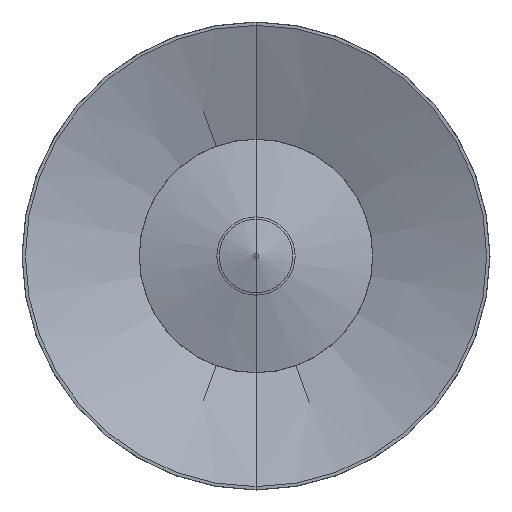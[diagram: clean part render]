
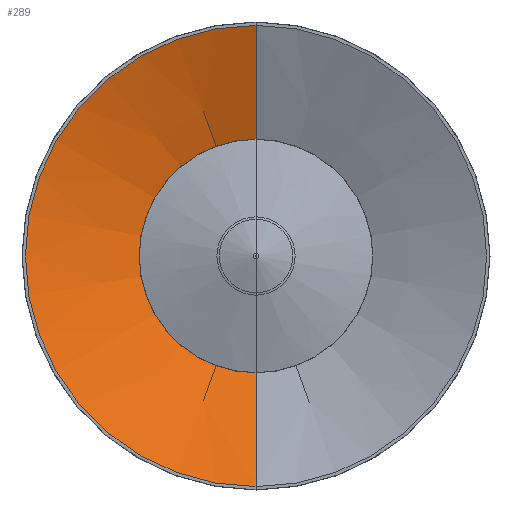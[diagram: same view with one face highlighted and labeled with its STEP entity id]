
A CAD part, front view. The second image highlights one B-rep face of the part: STEP entity #289.
In plain terms, the highlighted conical face has half-angle 68.199 degrees and reference radius 299.257 mm.
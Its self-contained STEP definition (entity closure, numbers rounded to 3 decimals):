
#102 = CARTESIAN_POINT ( 'NONE',  ( 0., -1.857, 299.257 ) ) ;
#146 = CARTESIAN_POINT ( 'NONE',  ( 0., 0., -294.615 ) ) ;
#155 = ORIENTED_EDGE ( 'NONE', *, *, #190, .F. ) ;
#178 = VERTEX_POINT ( 'NONE', #1228 ) ;
#185 = DIRECTION ( 'NONE',  ( 0., -0.371, 0.928 ) ) ;
#190 = EDGE_CURVE ( 'NONE', #928, #741, #1064, .T. ) ;
#205 = CIRCLE ( 'NONE', #422, 294.615 ) ;
#289 = ADVANCED_FACE ( 'NONE', ( #988 ), #636, .F. ) ;
#328 = EDGE_LOOP ( 'NONE', ( #155, #665, #584 ) ) ;
#330 = DIRECTION ( 'NONE',  ( 0., -1., 0. ) ) ;
#422 = AXIS2_PLACEMENT_3D ( 'NONE', #1197, #330, #594 ) ;
#453 = DIRECTION ( 'NONE',  ( 0., 0., -1. ) ) ;
#472 = LINE ( 'NONE', #102, #1059 ) ;
#501 = CARTESIAN_POINT ( 'NONE',  ( 0., 117.846, 0. ) ) ;
#584 = ORIENTED_EDGE ( 'NONE', *, *, #1042, .T. ) ;
#594 = DIRECTION ( 'NONE',  ( 0., 0., -1. ) ) ;
#636 = CONICAL_SURFACE ( 'NONE', #949, 299.257, 1.19 ) ;
#665 = ORIENTED_EDGE ( 'NONE', *, *, #1244, .T. ) ;
#718 = CARTESIAN_POINT ( 'NONE',  ( 0., -1.857, 0. ) ) ;
#741 = VERTEX_POINT ( 'NONE', #146 ) ;
#928 = VERTEX_POINT ( 'NONE', #501 ) ;
#949 = AXIS2_PLACEMENT_3D ( 'NONE', #718, #1221, #453 ) ;
#961 = VECTOR ( 'NONE', #1027, 1000. ) ;
#988 = FACE_OUTER_BOUND ( 'NONE', #328, .T. ) ;
#1027 = DIRECTION ( 'NONE',  ( 0., -0.371, -0.928 ) ) ;
#1042 = EDGE_CURVE ( 'NONE', #178, #741, #205, .T. ) ;
#1059 = VECTOR ( 'NONE', #185, 1000. ) ;
#1064 = LINE ( 'NONE', #1134, #961 ) ;
#1134 = CARTESIAN_POINT ( 'NONE',  ( 0., -1.857, -299.257 ) ) ;
#1197 = CARTESIAN_POINT ( 'NONE',  ( 0., 0., 0. ) ) ;
#1221 = DIRECTION ( 'NONE',  ( 0., -1., 0. ) ) ;
#1228 = CARTESIAN_POINT ( 'NONE',  ( 0., 0., 294.615 ) ) ;
#1244 = EDGE_CURVE ( 'NONE', #928, #178, #472, .T. ) ;
